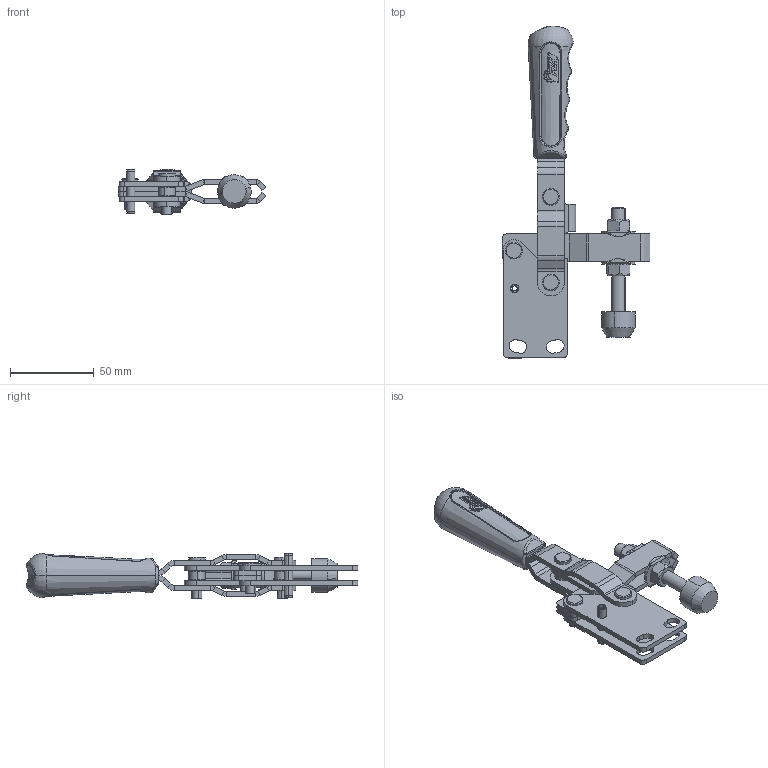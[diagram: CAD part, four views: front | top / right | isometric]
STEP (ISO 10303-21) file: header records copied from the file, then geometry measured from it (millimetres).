
FILE_DESCRIPTION (( 'STEP AP214' ), '1' );
FILE_NAME ('202_BU.STEP', '2024-09-09T16:27:56', ( '' ), ( '' ), 'SwSTEP 2.0', 'SolidWorks 2023', '' );
FILE_SCHEMA (( 'AUTOMOTIVE_DESIGN' ));
Length unit declared in the file: millimetre
Products named in the file (16): FZK_202_B_02_00; FZK_202_B_05_00_202 B-06; FZK_202_BU_01_00; FZK_202_B_04_00; FZK_202_B_02A_00; M8 PABUÇ; FZK_202_B_01_00; hex screw gradeab_din_DIN EN 24017 - M8 x 70-N; spring pin slotted_hd_iso_Spring Pin ISO 8752 - 5 x 26 - St; PUL ÇELİK M8 DIN 125; TTMK_01_00; FZK_202_BU_02_00; FZK_202_B_07_00; 202_BU; FZK_202_B_06_00_202 B-07; DIN EN ISO 7719 - M8 - C_1
Assembly tree (22 placements, depth 3):
  202_BU
    FZK_202_B_01_00  x2
    FZK_202_B_02_00
      FZK_202_B_02A_00  x2
    TTMK_01_00
    FZK_202_B_04_00
    FZK_202_BU_01_00
    FZK_202_BU_02_00
    FZK_202_B_05_00_202 B-06  x2
    FZK_202_B_06_00_202 B-07  x2
    FZK_202_B_07_00  x2
    spring pin slotted_hd_iso_Spring Pin ISO 8752 - 5 x 26 - St
    DIN EN ISO 7719 - M8 - C_1  x2
    PUL ÇELİK M8 DIN 125  x2
    M8 PABUÇ
    hex screw gradeab_din_DIN EN 24017 - M8 x 70-N
Bounding box: 88 x 197.84 x 27.37 mm (x, y, z)
Volume: 77310.8 mm3; surface area: 52027.7 mm2
Topology: 21 solids, 21 shells, 816 faces, 1923 edges, 1159 vertices
Faces by surface type: plane 256, cylinder 228, bspline 219, cone 85, sphere 20, torus 8
Entity records: 31577 total; most frequent: CARTESIAN_POINT 18058, ORIENTED_EDGE 3010, DIRECTION 2173, EDGE_CURVE 1505, VERTEX_POINT 921, AXIS2_PLACEMENT_3D 862, EDGE_LOOP 688, FACE_OUTER_BOUND 632
